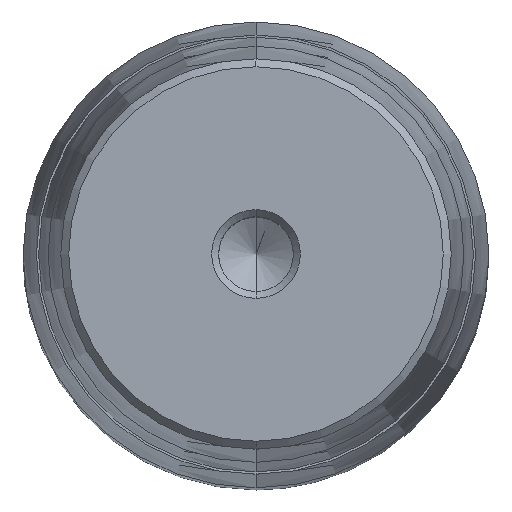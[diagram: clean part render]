
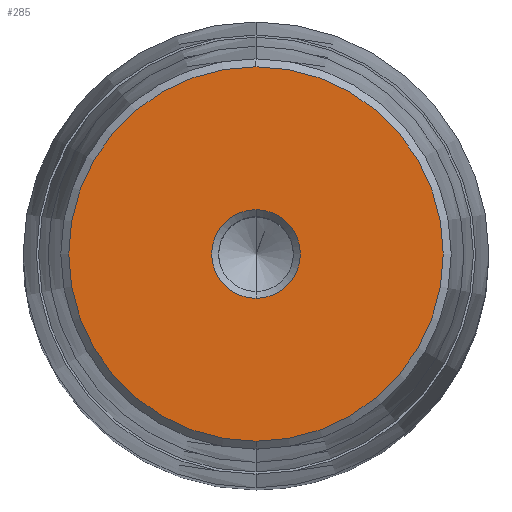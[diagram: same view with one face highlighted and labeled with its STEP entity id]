
A CAD part, top view. The second image highlights one B-rep face of the part: STEP entity #285.
In plain terms, the highlighted planar face has unit normal (0, 0, 1).
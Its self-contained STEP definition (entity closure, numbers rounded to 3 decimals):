
#164=CARTESIAN_POINT('Axis2P3D Location',(0.,0.,69.)) ;
#168=CARTESIAN_POINT('Vertex',(6.,0.,69.)) ;
#170=CARTESIAN_POINT('Vertex',(0.,-6.,69.)) ;
#173=CARTESIAN_POINT('Axis2P3D Location',(0.,0.,69.)) ;
#177=CARTESIAN_POINT('Vertex',(0.,6.,69.)) ;
#228=CARTESIAN_POINT('Axis2P3D Location',(0.,6.,69.)) ;
#233=CARTESIAN_POINT('Axis2P3D Location',(0.,0.,69.)) ;
#237=CARTESIAN_POINT('Vertex',(0.,25.325,69.)) ;
#239=CARTESIAN_POINT('Vertex',(25.325,0.,69.)) ;
#242=CARTESIAN_POINT('Axis2P3D Location',(0.,0.,69.)) ;
#246=CARTESIAN_POINT('Vertex',(-25.325,0.,69.)) ;
#249=CARTESIAN_POINT('Axis2P3D Location',(0.,0.,69.)) ;
#253=CARTESIAN_POINT('Vertex',(0.,-25.325,69.)) ;
#256=CARTESIAN_POINT('Axis2P3D Location',(0.,0.,69.)) ;
#267=CARTESIAN_POINT('Axis2P3D Location',(0.,0.,69.)) ;
#271=CARTESIAN_POINT('Vertex',(-6.,0.,69.)) ;
#274=CARTESIAN_POINT('Axis2P3D Location',(0.,0.,69.)) ;
#165=DIRECTION('Axis2P3D Direction',(0.,0.,1.)) ;
#174=DIRECTION('Axis2P3D Direction',(0.,0.,1.)) ;
#229=DIRECTION('Axis2P3D Direction',(-0.,0.,-1.)) ;
#230=DIRECTION('Axis2P3D XDirection',(0.,1.,0.)) ;
#234=DIRECTION('Axis2P3D Direction',(-0.,0.,-1.)) ;
#243=DIRECTION('Axis2P3D Direction',(-0.,0.,-1.)) ;
#250=DIRECTION('Axis2P3D Direction',(-0.,0.,-1.)) ;
#257=DIRECTION('Axis2P3D Direction',(-0.,0.,-1.)) ;
#268=DIRECTION('Axis2P3D Direction',(-0.,0.,-1.)) ;
#275=DIRECTION('Axis2P3D Direction',(-0.,0.,-1.)) ;
#166=AXIS2_PLACEMENT_3D('Circle Axis2P3D',#164,#165,$) ;
#175=AXIS2_PLACEMENT_3D('Circle Axis2P3D',#173,#174,$) ;
#231=AXIS2_PLACEMENT_3D('Plane Axis2P3D',#228,#229,#230) ;
#235=AXIS2_PLACEMENT_3D('Circle Axis2P3D',#233,#234,$) ;
#244=AXIS2_PLACEMENT_3D('Circle Axis2P3D',#242,#243,$) ;
#251=AXIS2_PLACEMENT_3D('Circle Axis2P3D',#249,#250,$) ;
#258=AXIS2_PLACEMENT_3D('Circle Axis2P3D',#256,#257,$) ;
#269=AXIS2_PLACEMENT_3D('Circle Axis2P3D',#267,#268,$) ;
#276=AXIS2_PLACEMENT_3D('Circle Axis2P3D',#274,#275,$) ;
#262=ORIENTED_EDGE('',*,*,#241,.F.) ;
#263=ORIENTED_EDGE('',*,*,#248,.F.) ;
#264=ORIENTED_EDGE('',*,*,#255,.F.) ;
#265=ORIENTED_EDGE('',*,*,#260,.F.) ;
#280=ORIENTED_EDGE('',*,*,#172,.T.) ;
#281=ORIENTED_EDGE('',*,*,#273,.T.) ;
#282=ORIENTED_EDGE('',*,*,#278,.T.) ;
#283=ORIENTED_EDGE('',*,*,#179,.T.) ;
#284=FACE_BOUND('',#279,.T.) ;
#285=ADVANCED_FACE('722-63x200x251',(#266,#284),#232,.F.) ;
#167=CIRCLE('generated circle',#166,6.) ;
#176=CIRCLE('generated circle',#175,6.) ;
#236=CIRCLE('generated circle',#235,25.325) ;
#245=CIRCLE('generated circle',#244,25.325) ;
#252=CIRCLE('generated circle',#251,25.325) ;
#259=CIRCLE('generated circle',#258,25.325) ;
#270=CIRCLE('generated circle',#269,6.) ;
#277=CIRCLE('generated circle',#276,6.) ;
#172=EDGE_CURVE('',#169,#171,#167,.F.) ;
#179=EDGE_CURVE('',#178,#169,#176,.F.) ;
#241=EDGE_CURVE('',#238,#240,#236,.T.) ;
#248=EDGE_CURVE('',#247,#238,#245,.T.) ;
#255=EDGE_CURVE('',#254,#247,#252,.T.) ;
#260=EDGE_CURVE('',#240,#254,#259,.T.) ;
#273=EDGE_CURVE('',#171,#272,#270,.T.) ;
#278=EDGE_CURVE('',#272,#178,#277,.T.) ;
#261=EDGE_LOOP('',(#262,#263,#264,#265)) ;
#279=EDGE_LOOP('',(#280,#281,#282,#283)) ;
#266=FACE_OUTER_BOUND('',#261,.T.) ;
#232=PLANE('Plane',#231) ;
#169=VERTEX_POINT('',#168) ;
#171=VERTEX_POINT('',#170) ;
#178=VERTEX_POINT('',#177) ;
#238=VERTEX_POINT('',#237) ;
#240=VERTEX_POINT('',#239) ;
#247=VERTEX_POINT('',#246) ;
#254=VERTEX_POINT('',#253) ;
#272=VERTEX_POINT('',#271) ;
